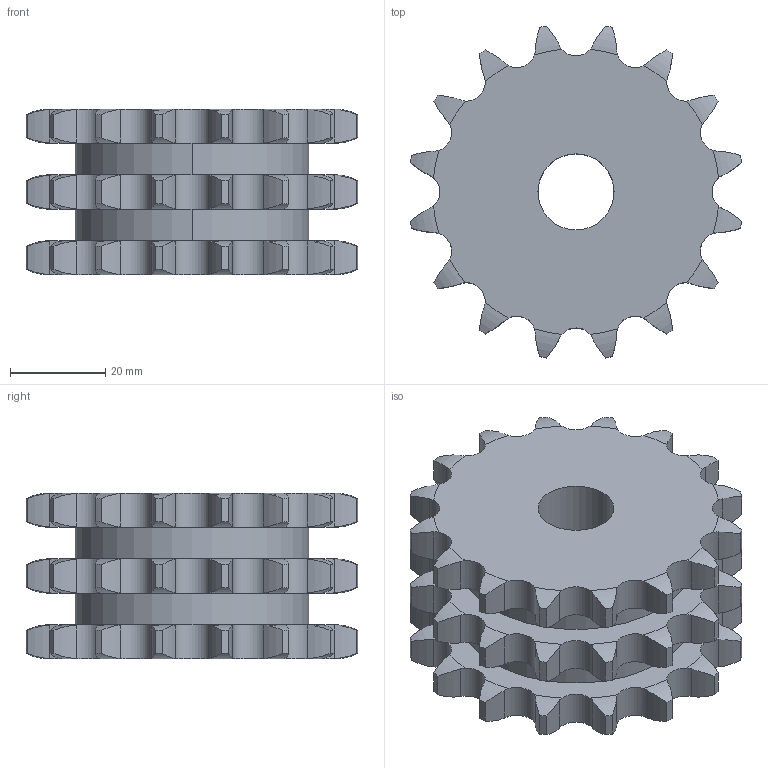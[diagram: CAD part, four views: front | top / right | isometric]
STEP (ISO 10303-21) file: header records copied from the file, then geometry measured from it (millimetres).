
FILE_DESCRIPTION((''),'2;1');
FILE_NAME('500-203-0016_PRT','2021-02-12T',('Brieden'),('Brieden'),'PRO/ENGINEER BY PARAMETRIC TECHNOLOGY CORPORATION, 2010160','PRO/ENGINEER BY PARAMETRIC TECHNOLOGY CORPORATION, 2010160','');
FILE_SCHEMA(('AUTOMOTIVE_DESIGN { 1 0 10303 214 1 1 1 1 }'));
Length unit declared in the file: millimetre
Products named in the file (1): 500-203-0016_PRT
Bounding box: 69.82 x 69.82 x 34.9 mm (x, y, z)
Volume: 84261.9 mm3; surface area: 20695.3 mm2
Topology: 1 solids, 1 shells, 300 faces, 882 edges, 588 vertices
Faces by surface type: cylinder 198, torus 96, plane 6
Entity records: 13955 total; most frequent: CARTESIAN_POINT 3710, ORIENTED_EDGE 1764, DIRECTION 1398, PRESENTATION_STYLE_ASSIGNMENT 883, STYLED_ITEM 883, CURVE_STYLE 882, EDGE_CURVE 882, AXIS2_PLACEMENT_3D 600
